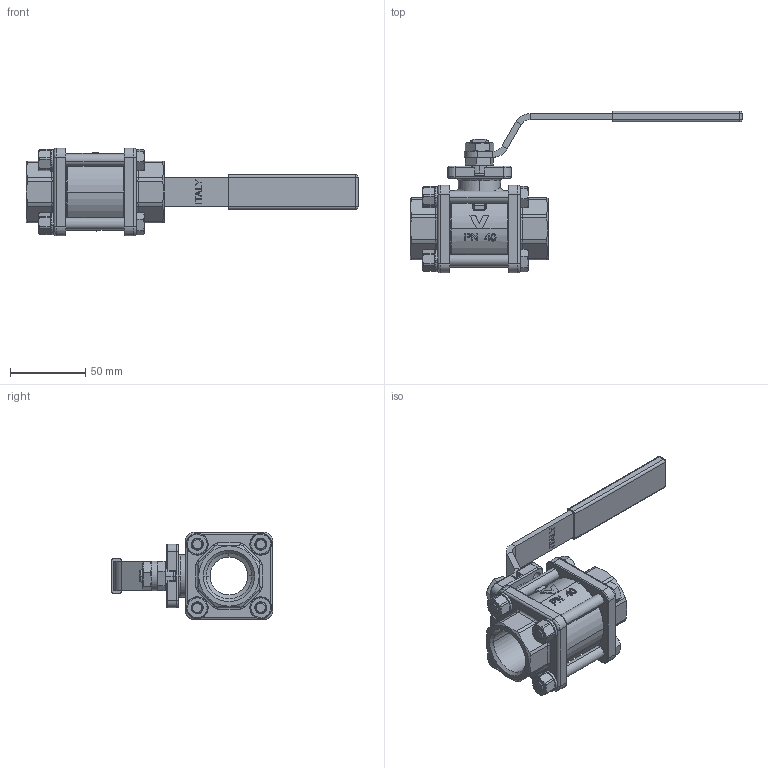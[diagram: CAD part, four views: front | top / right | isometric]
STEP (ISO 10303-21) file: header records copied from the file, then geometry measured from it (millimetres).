
FILE_DESCRIPTION (( 'STEP AP203' ), '1' );
FILE_NAME ('71000006.STEP', '2008-10-15T08:07:52', ( '.' ), ( '.' ), 'SwSTEP 2.0', 'SolidWorks 2007', '' );
FILE_SCHEMA (( 'CONFIG_CONTROL_DESIGN' ));
Products named in the file (1): 71000006
Bounding box: 220 x 107 x 58 mm (x, y, z)
Volume: 189999 mm3; surface area: 64202 mm2
Topology: 2 solids, 2 shells, 1243 faces, 3062 edges, 1868 vertices
Faces by surface type: plane 375, cylinder 358, bspline 278, cone 229, torus 3
Entity records: 68382 total; most frequent: CARTESIAN_POINT 41094, ORIENTED_EDGE 6084, DIRECTION 5152, EDGE_CURVE 3042, AXIS2_PLACEMENT_3D 1965, VERTEX_POINT 1868, EDGE_LOOP 1342, FACE_OUTER_BOUND 1243
